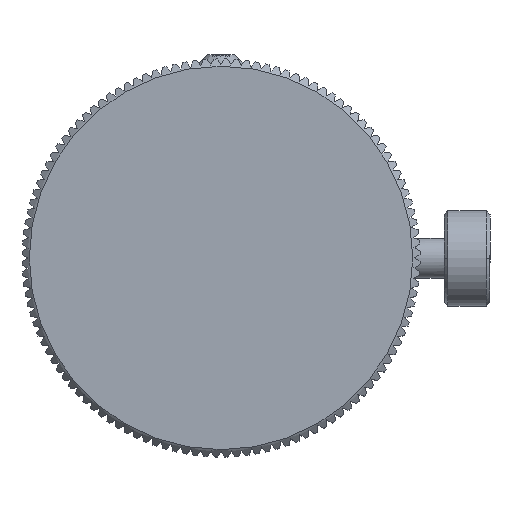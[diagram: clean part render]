
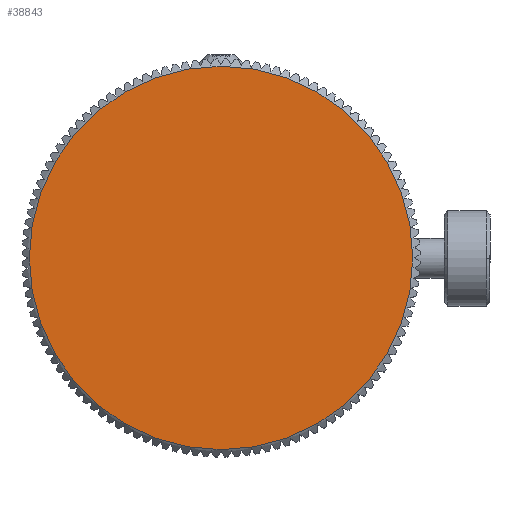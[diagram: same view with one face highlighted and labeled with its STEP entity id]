
A CAD part, top view. The second image highlights one B-rep face of the part: STEP entity #38843.
In plain terms, the highlighted planar face has unit normal (0, 0, 1).
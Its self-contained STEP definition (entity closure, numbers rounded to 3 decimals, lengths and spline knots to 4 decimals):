
#1587 = EDGE_CURVE ( 'NONE', #39937, #3508, #14294, .T. ) ;
#2033 = FACE_OUTER_BOUND ( 'NONE', #29569, .T. ) ;
#2952 = CIRCLE ( 'NONE', #24186, 1.9875 ) ;
#3508 = VERTEX_POINT ( 'NONE', #40989 ) ;
#5217 = CARTESIAN_POINT ( 'NONE',  ( -1.9875, 0., 24.699 ) ) ;
#6417 = CARTESIAN_POINT ( 'NONE',  ( 0., 0., 24.699 ) ) ;
#6426 = CARTESIAN_POINT ( 'NONE',  ( 0., 0., 24.699 ) ) ;
#6428 = DIRECTION ( 'NONE',  ( 0., 0., -1. ) ) ;
#6430 = DIRECTION ( 'NONE',  ( -1., 0., 0. ) ) ;
#6472 = DIRECTION ( 'NONE',  ( 0., 0., -1. ) ) ;
#8130 = DIRECTION ( 'NONE',  ( -1., 0., 0. ) ) ;
#9067 = AXIS2_PLACEMENT_3D ( 'NONE', #6417, #6472, #8130 ) ;
#13564 = AXIS2_PLACEMENT_3D ( 'NONE', #50724, #50732, #50733 ) ;
#14294 = CIRCLE ( 'NONE', #9067, 1.9875 ) ;
#24186 = AXIS2_PLACEMENT_3D ( 'NONE', #6426, #6428, #6430 ) ;
#29569 = EDGE_LOOP ( 'NONE', ( #37517, #30215 ) ) ;
#30215 = ORIENTED_EDGE ( 'NONE', *, *, #41168, .F. ) ;
#37517 = ORIENTED_EDGE ( 'NONE', *, *, #1587, .F. ) ;
#38843 = ADVANCED_FACE ( 'NONE', ( #2033 ), #50729, .F. ) ;
#39937 = VERTEX_POINT ( 'NONE', #5217 ) ;
#40989 = CARTESIAN_POINT ( 'NONE',  ( 1.9875, 0., 24.699 ) ) ;
#41168 = EDGE_CURVE ( 'NONE', #3508, #39937, #2952, .T. ) ;
#50724 = CARTESIAN_POINT ( 'NONE',  ( 0., 0., 24.699 ) ) ;
#50729 = PLANE ( 'NONE',  #13564 ) ;
#50732 = DIRECTION ( 'NONE',  ( 0., 0., -1. ) ) ;
#50733 = DIRECTION ( 'NONE',  ( 0., 1., 0. ) ) ;
